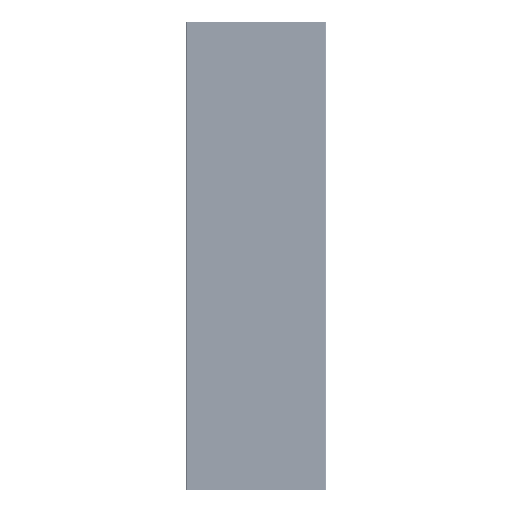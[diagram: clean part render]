
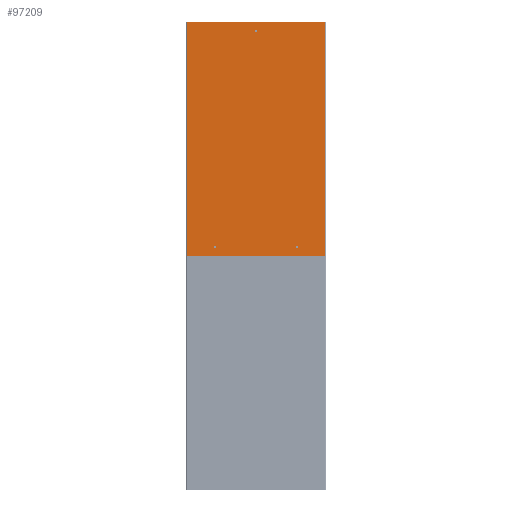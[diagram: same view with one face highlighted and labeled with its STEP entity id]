
A CAD part, top view. The second image highlights one B-rep face of the part: STEP entity #97209.
In plain terms, the highlighted planar face has unit normal (0, 0, 1).
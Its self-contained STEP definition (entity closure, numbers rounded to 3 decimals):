
#6774=FACE_BOUND('',#18869,.T.);
#6775=FACE_BOUND('',#18870,.T.);
#6776=FACE_BOUND('',#18871,.T.);
#9210=CIRCLE('',#104390,9.5);
#9212=CIRCLE('',#104393,9.5);
#9214=CIRCLE('',#104396,9.5);
#13387=FACE_OUTER_BOUND('',#18868,.T.);
#18868=EDGE_LOOP('',(#69552,#69553,#69554,#69555));
#18869=EDGE_LOOP('',(#69556));
#18870=EDGE_LOOP('',(#69557));
#18871=EDGE_LOOP('',(#69558));
#25298=LINE('',#145268,#34292);
#25310=LINE('',#145300,#34304);
#25322=LINE('',#145329,#34316);
#25324=LINE('',#145332,#34318);
#34292=VECTOR('',#117272,10.);
#34304=VECTOR('',#117308,10.);
#34316=VECTOR('',#117342,10.);
#34318=VECTOR('',#117346,10.);
#42715=VERTEX_POINT('',#143723);
#42717=VERTEX_POINT('',#143729);
#42719=VERTEX_POINT('',#143735);
#43224=VERTEX_POINT('',#145265);
#43225=VERTEX_POINT('',#145267);
#43232=VERTEX_POINT('',#145297);
#43233=VERTEX_POINT('',#145299);
#52435=EDGE_CURVE('',#42715,#42715,#9210,.T.);
#52438=EDGE_CURVE('',#42717,#42717,#9212,.T.);
#52441=EDGE_CURVE('',#42719,#42719,#9214,.T.);
#53195=EDGE_CURVE('',#43225,#43224,#25298,.T.);
#53211=EDGE_CURVE('',#43233,#43232,#25310,.T.);
#53226=EDGE_CURVE('',#43225,#43232,#25322,.T.);
#53228=EDGE_CURVE('',#43233,#43224,#25324,.T.);
#69552=ORIENTED_EDGE('',*,*,#53195,.T.);
#69553=ORIENTED_EDGE('',*,*,#53228,.F.);
#69554=ORIENTED_EDGE('',*,*,#53211,.T.);
#69555=ORIENTED_EDGE('',*,*,#53226,.F.);
#69556=ORIENTED_EDGE('',*,*,#52435,.T.);
#69557=ORIENTED_EDGE('',*,*,#52438,.T.);
#69558=ORIENTED_EDGE('',*,*,#52441,.T.);
#94027=PLANE('',#104884);
#97209=ADVANCED_FACE('',(#13387,#6774,#6775,#6776),#94027,.T.);
#104390=AXIS2_PLACEMENT_3D('',#143725,#115768,#115769);
#104393=AXIS2_PLACEMENT_3D('',#143731,#115775,#115776);
#104396=AXIS2_PLACEMENT_3D('',#143737,#115782,#115783);
#104884=AXIS2_PLACEMENT_3D('',#145331,#117344,#117345);
#115768=DIRECTION('center_axis',(0.,0.,-1.));
#115769=DIRECTION('ref_axis',(-1.,0.,0.));
#115775=DIRECTION('center_axis',(0.,0.,-1.));
#115776=DIRECTION('ref_axis',(-1.,0.,0.));
#115782=DIRECTION('center_axis',(0.,0.,-1.));
#115783=DIRECTION('ref_axis',(-1.,0.,0.));
#117272=DIRECTION('',(1.,0.,0.));
#117308=DIRECTION('',(-1.,0.,0.));
#117342=DIRECTION('',(0.,1.,0.));
#117344=DIRECTION('center_axis',(0.,0.,1.));
#117345=DIRECTION('ref_axis',(1.,0.,0.));
#117346=DIRECTION('',(0.,-1.,0.));
#143723=CARTESIAN_POINT('',(-910.5,350.,6.));
#143725=CARTESIAN_POINT('Origin',(-920.,350.,6.));
#143729=CARTESIAN_POINT('',(-910.5,-350.,6.));
#143731=CARTESIAN_POINT('Origin',(-920.,-350.,6.));
#143735=CARTESIAN_POINT('',(929.5,0.,6.));
#143737=CARTESIAN_POINT('Origin',(920.,0.,6.));
#145265=CARTESIAN_POINT('',(1000.,-586.8,6.));
#145267=CARTESIAN_POINT('',(-1000.,-586.8,6.));
#145268=CARTESIAN_POINT('',(-500.,-586.8,6.));
#145297=CARTESIAN_POINT('',(-1000.,586.8,6.));
#145299=CARTESIAN_POINT('',(1000.,586.8,6.));
#145300=CARTESIAN_POINT('',(500.,586.8,6.));
#145329=CARTESIAN_POINT('',(-1000.,600.,6.));
#145331=CARTESIAN_POINT('Origin',(0.,0.,
6.));
#145332=CARTESIAN_POINT('',(1000.,-600.,6.));
